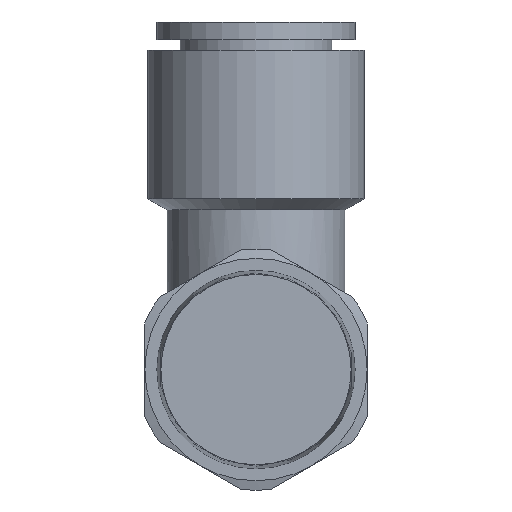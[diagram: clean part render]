
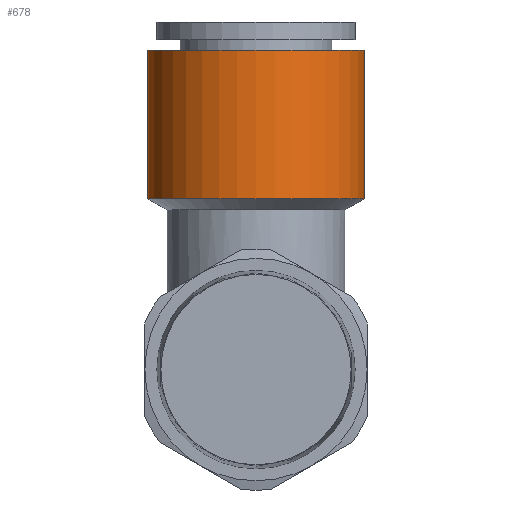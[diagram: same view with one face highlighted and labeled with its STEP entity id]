
A CAD part, front view. The second image highlights one B-rep face of the part: STEP entity #678.
In plain terms, the highlighted cylindrical face has radius 9.25 mm (diameter 18.5 mm), a full revolution.
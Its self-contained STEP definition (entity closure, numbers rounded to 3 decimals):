
#79=CYLINDRICAL_SURFACE('',#781,9.25);
#121=CIRCLE('',#780,9.25);
#122=CIRCLE('',#782,9.25);
#301=ORIENTED_EDGE('',*,*,#398,.F.);
#302=ORIENTED_EDGE('',*,*,#397,.T.);
#397=EDGE_CURVE('',#459,#459,#121,.T.);
#398=EDGE_CURVE('',#460,#460,#122,.T.);
#459=VERTEX_POINT('',#1294);
#460=VERTEX_POINT('',#1297);
#550=EDGE_LOOP('',(#301));
#551=EDGE_LOOP('',(#302));
#612=FACE_BOUND('',#550,.T.);
#613=FACE_BOUND('',#551,.T.);
#678=ADVANCED_FACE('',(#612,#613),#79,.T.);
#780=AXIS2_PLACEMENT_3D('',#1293,#973,#974);
#781=AXIS2_PLACEMENT_3D('',#1295,#975,#976);
#782=AXIS2_PLACEMENT_3D('',#1296,#977,#978);
#973=DIRECTION('',(0.,0.,-1.));
#974=DIRECTION('',(-1.,0.,0.));
#975=DIRECTION('',(0.,0.,-1.));
#976=DIRECTION('',(-1.,0.,0.));
#977=DIRECTION('',(0.,0.,-1.));
#978=DIRECTION('',(-1.,0.,0.));
#1293=CARTESIAN_POINT('',(0.,21.6,27.3));
#1294=CARTESIAN_POINT('',(-9.25,21.6,27.3));
#1295=CARTESIAN_POINT('',(0.,21.6,0.));
#1296=CARTESIAN_POINT('',(0.,21.6,14.6));
#1297=CARTESIAN_POINT('',(-9.25,21.6,14.6));
